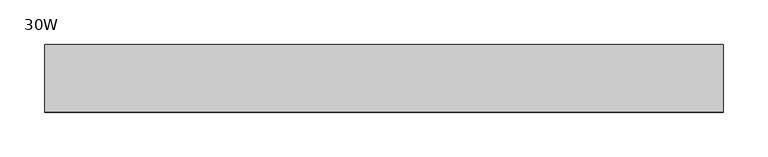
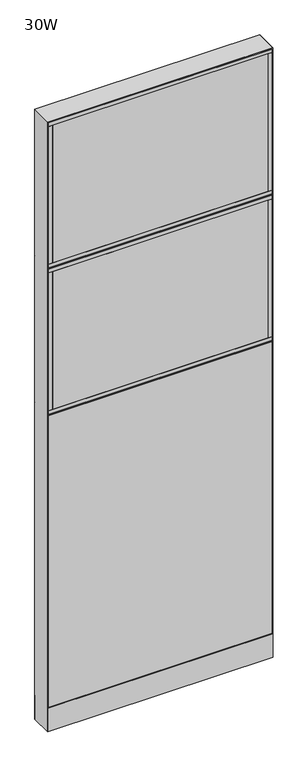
"""IFC4 building model written with IfcOpenShell, lengths in millimetres: furniture geometry, Steelcase - Montage - Frame - 86H - Enhanced Standard - Base Cavity : 30W."""

from ifc_helpers import new_model, si_unit, point, frame, frame_2d, origin, origin_with_axes, place, context, project, spatial, polyline, circle_curve, trimmed, segment, composite_curve, outline, extrude, faceted_brep, source, transform, mapped, element, save


def furniture_30w_df0053b3(model_context):
    return source(origin(), model_context, "Body", "SolidModel", [
        extrude(outline(polyline([(3.175, 31.7500194), (3.175, 38.1000194), (758.825, 38.1000194), (758.825, 31.7500194), (3.175, 31.7500194)])), frame((0.0, 0.0, 92.075), z_axis=(0.0, 0.0, 1.0), x_axis=(1.0, 0.0, 0.0)), (0.0, 0.0, 1.0), 1041.4),
        extrude(outline(polyline([(746.125, 38.1000015), (746.125, 31.7500017), (15.875, 31.7500017), (15.875, 38.1000015), (746.125, 38.1000015)])), frame((0.0, 0.0, 1152.525), z_axis=(0.0, 0.0, 1.0), x_axis=(1.0, 0.0, 0.0)), (0.0, 0.0, 1.0), 492.125),
        extrude(outline(polyline([(746.125, -31.7499985), (746.125, -38.1000015), (15.875, -38.1000015), (15.875, -31.7499985), (746.125, -31.7499985)])), frame((0.0, 0.0, 1152.525), z_axis=(0.0, 0.0, 1.0), x_axis=(1.0, 0.0, 0.0)), (0.0, 0.0, 1.0), 492.125),
        extrude(outline(polyline([(758.825, -38.1000015), (746.125, -38.1000015), (746.125, 38.1000015), (758.825, 38.1000015), (758.825, -38.1000015)])), frame((0.0, 0.0, 1152.525), z_axis=(0.0, 0.0, 1.0), x_axis=(1.0, 0.0, 0.0)), (0.0, 0.0, 1.0), 492.125),
        extrude(outline(polyline([(15.875, -38.1000015), (3.175, -38.1000015), (3.175, 38.1000015), (15.875, 38.1000015), (15.875, -38.1000015)])), frame((0.0, 0.0, 1152.525), z_axis=(0.0, 0.0, 1.0), x_axis=(1.0, 0.0, 0.0)), (0.0, 0.0, 1.0), 492.125),
        extrude(outline(polyline([(758.825, -38.1000015), (3.175, -38.1000015), (3.175, 38.1000015), (758.825, 38.1000015), (758.825, -38.1000015)])), frame((0.0, 0.0, 1139.825), z_axis=(0.0, 0.0, 1.0), x_axis=(1.0, 0.0, 0.0)), (0.0, 0.0, 1.0), 12.7),
        extrude(outline(polyline([(758.825, -38.1000015), (3.175, -38.1000015), (3.175, 38.1000015), (758.825, 38.1000015), (758.825, -38.1000015)])), frame((0.0, 0.0, 1644.65), z_axis=(0.0, 0.0, 1.0), x_axis=(1.0, 0.0, 0.0)), (0.0, 0.0, 1.0), 12.7),
        extrude(outline(polyline([(746.125, 38.1000015), (746.125, 31.7500017), (15.875, 31.7500017), (15.875, 38.1000015), (746.125, 38.1000015)])), frame((0.0, 0.0, 1676.4), z_axis=(0.0, 0.0, 1.0), x_axis=(1.0, 0.0, 0.0)), (0.0, 0.0, 1.0), 492.125),
        extrude(outline(polyline([(746.125, -31.7499985), (746.125, -38.1000015), (15.875, -38.1000015), (15.875, -31.7499985), (746.125, -31.7499985)])), frame((0.0, 0.0, 1676.4), z_axis=(0.0, 0.0, 1.0), x_axis=(1.0, 0.0, 0.0)), (0.0, 0.0, 1.0), 492.125),
        extrude(outline(polyline([(758.825, -38.1000015), (746.125, -38.1000015), (746.125, 38.1000015), (758.825, 38.1000015), (758.825, -38.1000015)])), frame((0.0, 0.0, 1676.4), z_axis=(0.0, 0.0, 1.0), x_axis=(1.0, 0.0, 0.0)), (0.0, 0.0, 1.0), 492.125),
        extrude(outline(polyline([(15.875, -38.1000015), (3.175, -38.1000015), (3.175, 38.1000015), (15.875, 38.1000015), (15.875, -38.1000015)])), frame((0.0, 0.0, 1676.4), z_axis=(0.0, 0.0, 1.0), x_axis=(1.0, 0.0, 0.0)), (0.0, 0.0, 1.0), 492.125),
        extrude(outline(polyline([(758.825, -38.1000015), (3.175, -38.1000015), (3.175, 38.1000015), (758.825, 38.1000015), (758.825, -38.1000015)])), frame((0.0, 0.0, 1663.7), z_axis=(0.0, 0.0, 1.0), x_axis=(1.0, 0.0, 0.0)), (0.0, 0.0, 1.0), 12.7),
        extrude(outline(polyline([(758.825, -38.1000015), (3.175, -38.1000015), (3.175, 38.1000015), (758.825, 38.1000015), (758.825, -38.1000015)])), frame((0.0, 0.0, 2168.525), z_axis=(0.0, 0.0, 1.0), x_axis=(1.0, 0.0, 0.0)), (0.0, 0.0, 1.0), 12.7),
        faceted_brep([(-5.4e-06, 38.102627, 1136.6500027), (6.3499917, 31.7526299, 1142.9999997), (755.6500047, 31.7526299, 1142.9999997), (762.0, 38.1026253, 1136.6500044), (755.6500047, 31.7526299, 1130.3000003), (6.3499917, 31.7526299, 1130.3000003)], [[[0, 1, 2, 3]], [[3, 4, 5, 0]], [[1, 5, 4, 2]], [[0, 5, 1]], [[2, 4, 3]]]),
        faceted_brep([(-5.4e-06, 38.102627, 1660.5250027), (6.3499917, 31.7526299, 1666.8749997), (755.6500047, 31.7526299, 1666.8749997), (762.0, 38.1026253, 1660.5250044), (755.6500047, 31.7526299, 1654.1750003), (6.3499917, 31.7526299, 1654.1750003)], [[[0, 1, 2, 3]], [[3, 4, 5, 0]], [[1, 5, 4, 2]], [[0, 5, 1]], [[2, 4, 3]]]),
        extrude(outline(polyline([(3.175, -31.7500194), (758.825, -31.7500194), (758.825, -38.1000194), (3.175, -38.1000194), (3.175, -31.7500194)])), frame((0.0, 0.0, 92.075), z_axis=(0.0, 0.0, 1.0), x_axis=(1.0, 0.0, 0.0)), (0.0, 0.0, 1.0), 1041.4),
        extrude(outline(polyline([(746.125, -38.1000015), (15.875, -38.1000015), (15.875, -31.7500017), (746.125, -31.7500017), (746.125, -38.1000015)])), frame((0.0, 0.0, 1152.525), z_axis=(0.0, 0.0, 1.0), x_axis=(1.0, 0.0, 0.0)), (0.0, 0.0, 1.0), 492.125),
        extrude(outline(polyline([(746.125, 31.7499985), (15.875, 31.7499985), (15.875, 38.1000015), (746.125, 38.1000015), (746.125, 31.7499985)])), frame((0.0, 0.0, 1152.525), z_axis=(0.0, 0.0, 1.0), x_axis=(1.0, 0.0, 0.0)), (0.0, 0.0, 1.0), 492.125),
        extrude(outline(polyline([(758.825, 38.1000015), (758.825, -38.1000015), (746.125, -38.1000015), (746.125, 38.1000015), (758.825, 38.1000015)])), frame((0.0, 0.0, 1152.525), z_axis=(0.0, 0.0, 1.0), x_axis=(1.0, 0.0, 0.0)), (0.0, 0.0, 1.0), 492.125),
        extrude(outline(polyline([(15.875, 38.1000015), (15.875, -38.1000015), (3.175, -38.1000015), (3.175, 38.1000015), (15.875, 38.1000015)])), frame((0.0, 0.0, 1152.525), z_axis=(0.0, 0.0, 1.0), x_axis=(1.0, 0.0, 0.0)), (0.0, 0.0, 1.0), 492.125),
        extrude(outline(polyline([(758.825, 38.1000015), (758.825, -38.1000015), (3.175, -38.1000015), (3.175, 38.1000015), (758.825, 38.1000015)])), frame((0.0, 0.0, 1139.825), z_axis=(0.0, 0.0, 1.0), x_axis=(1.0, 0.0, 0.0)), (0.0, 0.0, 1.0), 12.7),
        extrude(outline(polyline([(758.825, 38.1000015), (758.825, -38.1000015), (3.175, -38.1000015), (3.175, 38.1000015), (758.825, 38.1000015)])), frame((0.0, 0.0, 1644.65), z_axis=(0.0, 0.0, 1.0), x_axis=(1.0, 0.0, 0.0)), (0.0, 0.0, 1.0), 12.7),
        extrude(outline(polyline([(746.125, -38.1000015), (15.875, -38.1000015), (15.875, -31.7500017), (746.125, -31.7500017), (746.125, -38.1000015)])), frame((0.0, 0.0, 1676.4), z_axis=(0.0, 0.0, 1.0), x_axis=(1.0, 0.0, 0.0)), (0.0, 0.0, 1.0), 492.125),
        extrude(outline(polyline([(746.125, 31.7499985), (15.875, 31.7499985), (15.875, 38.1000015), (746.125, 38.1000015), (746.125, 31.7499985)])), frame((0.0, 0.0, 1676.4), z_axis=(0.0, 0.0, 1.0), x_axis=(1.0, 0.0, 0.0)), (0.0, 0.0, 1.0), 492.125),
        extrude(outline(polyline([(758.825, 38.1000015), (758.825, -38.1000015), (746.125, -38.1000015), (746.125, 38.1000015), (758.825, 38.1000015)])), frame((0.0, 0.0, 1676.4), z_axis=(0.0, 0.0, 1.0), x_axis=(1.0, 0.0, 0.0)), (0.0, 0.0, 1.0), 492.125),
        extrude(outline(polyline([(15.875, 38.1000015), (15.875, -38.1000015), (3.175, -38.1000015), (3.175, 38.1000015), (15.875, 38.1000015)])), frame((0.0, 0.0, 1676.4), z_axis=(0.0, 0.0, 1.0), x_axis=(1.0, 0.0, 0.0)), (0.0, 0.0, 1.0), 492.125),
        extrude(outline(polyline([(758.825, 38.1000015), (758.825, -38.1000015), (3.175, -38.1000015), (3.175, 38.1000015), (758.825, 38.1000015)])), frame((0.0, 0.0, 1663.7), z_axis=(0.0, 0.0, 1.0), x_axis=(1.0, 0.0, 0.0)), (0.0, 0.0, 1.0), 12.7),
        extrude(outline(polyline([(758.825, 38.1000015), (758.825, -38.1000015), (3.175, -38.1000015), (3.175, 38.1000015), (758.825, 38.1000015)])), frame((0.0, 0.0, 2168.525), z_axis=(0.0, 0.0, 1.0), x_axis=(1.0, 0.0, 0.0)), (0.0, 0.0, 1.0), 12.7),
        faceted_brep([(0.0, -38.1026297, 1136.65), (762.0, -38.1026297, 1136.65), (755.6500047, -31.7526299, 1142.9999997), (6.3499917, -31.7526299, 1142.9999997), (6.3499917, -31.7526299, 1130.3000003), (755.6500047, -31.7526299, 1130.3000003)], [[[0, 1, 2, 3]], [[1, 0, 4, 5]], [[3, 2, 5, 4]], [[0, 3, 4]], [[2, 1, 5]]]),
        faceted_brep([(0.0, -38.1026297, 1660.525), (762.0, -38.1026297, 1660.525), (755.6500047, -31.7526299, 1666.8749997), (6.3499917, -31.7526299, 1666.8749997), (6.3499917, -31.7526299, 1654.1750003), (755.6500047, -31.7526299, 1654.1750003)], [[[0, 1, 2, 3]], [[1, 0, 4, 5]], [[3, 2, 5, 4]], [[0, 3, 4]], [[2, 1, 5]]]),
        extrude(outline(polyline([(6.350003, -31.7499985), (755.649997, -31.7499985), (762.0, -38.1000015), (0.0, -38.1000015), (6.350003, -31.7499985)])), frame((0.0, 0.0, 4.064), z_axis=(0.0, 0.0, 1.0), x_axis=(1.0, 0.0, 0.0)), (0.0, 0.0, 1.0), 84.835997),
        extrude(outline(polyline([(6.3500002, 31.7500017), (0.0, 38.1000015), (762.0, 38.1000015), (755.6500002, 31.7500017), (6.3500002, 31.7500017)])), frame((0.0, 0.0, 4.064), z_axis=(0.0, 0.0, 1.0), x_axis=(1.0, 0.0, 0.0)), (0.0, 0.0, 1.0), 84.835997),
        faceted_brep([(762.0, -38.1000015, 2184.4), (0.0, -38.1000015, 2184.4), (6.3500484, -31.749953, 2178.0499516), (755.6499516, -31.749953, 2178.0499516), (6.3500484, 31.749953, 2178.0499516), (755.6499516, 31.749953, 2178.0499516), (0.0, 38.1000015, 2184.4), (762.0, 38.1000015, 2184.4)], [[[0, 1, 2, 3]], [[3, 2, 4, 5]], [[6, 7, 5, 4]], [[1, 0, 7, 6]], [[2, 1, 6, 4]], [[0, 3, 5, 7]]]),
        extrude(outline(composite_curve([segment(trimmed(circle_curve(frame_2d((44.45, 0.0)), 15.24), [point((29.21, 0.0))], [point((59.69, 0.0))], False, "CARTESIAN"), True, "CONTINUOUS"), segment(trimmed(circle_curve(frame_2d((44.45, 0.0)), 15.24), [point((59.69, 0.0))], [point((29.21, 0.0))], False, "CARTESIAN"), True, "CONTINUOUS")], self_intersect=False)), origin_with_axes(), (0.0, 0.0, 1.0), 4.064),
        extrude(outline(composite_curve([segment(trimmed(circle_curve(frame_2d((717.55, 0.0)), 15.24), [point((702.31, 0.0))], [point((732.79, 0.0))], False, "CARTESIAN"), True, "CONTINUOUS"), segment(trimmed(circle_curve(frame_2d((717.55, 0.0)), 15.24), [point((732.79, 0.0))], [point((702.31, 0.0))], False, "CARTESIAN"), True, "CONTINUOUS")], self_intersect=False)), origin_with_axes(), (0.0, 0.0, 1.0), 4.064),
        faceted_brep([(762.0, -38.1000106, 4.064), (762.0, 38.1000015, 4.064), (762.0, 38.1000015, 2184.4), (762.0, -38.1000106, 2184.3999637), (0.0, 38.1000015, 4.064), (0.0, -38.1000015, 4.064), (0.0, -38.1000015, 2184.4), (0.0, 38.1000015, 2184.4), (755.6499879, 31.7500017, 606.425), (6.35, 31.7500017, 606.425), (6.3499998, 31.7500017, 619.125), (755.6499879, 31.7500017, 619.125), (6.35, -31.7499985, 619.125), (755.6499879, -31.7499985, 619.125), (6.350003, -31.7499985, 606.425), (755.6499879, -31.7499985, 606.425), (755.6499879, 31.7500017, 1130.3), (6.35, 31.7500017, 1130.3), (6.3499998, 31.7500017, 1143.0), (755.6499879, 31.7500017, 1143.0), (6.35, -31.7499985, 1143.0), (755.6499879, -31.7499985, 1143.0), (6.350003, -31.7499985, 1130.3), (755.6499879, -31.7499985, 1130.3), (755.6499879, 31.7500017, 1654.175), (6.35, 31.7500017, 1654.175), (6.3499998, 31.7500017, 1666.875), (755.6499879, 31.7500017, 1666.875), (6.35, -31.7499985, 1666.875), (755.6499879, -31.7499985, 1666.875), (6.350003, -31.7499985, 1654.175), (755.6499879, -31.7499985, 1654.175), (6.35, 31.7500015, 4.064), (6.35, -31.7500015, 4.064), (755.6499879, 31.7499894, 4.064), (755.6499879, -31.7499985, 4.064), (6.35, 31.7500015, 2178.05), (6.35, -31.7500015, 2178.05), (755.6499879, -31.7499985, 2178.0499516), (755.6499879, 31.7499895, 2178.0499516)], [[[0, 1, 2, 3]], [[4, 5, 6, 7]], [[8, 9, 10, 11]], [[11, 10, 12, 13]], [[13, 12, 14, 15]], [[9, 8, 15, 14]], [[16, 17, 18, 19]], [[19, 18, 20, 21]], [[21, 20, 22, 23]], [[17, 16, 23, 22]], [[24, 25, 26, 27]], [[27, 26, 28, 29]], [[29, 28, 30, 31]], [[25, 24, 31, 30]], [[32, 33, 5, 4]], [[34, 1, 0, 35]], [[32, 4, 7, 36, 26, 25, 18, 17, 10, 9]], [[5, 33, 14, 12, 22, 20, 30, 28, 37, 6]], [[28, 26, 36, 37]], [[33, 32, 9, 14]], [[18, 25, 30, 20]], [[10, 17, 22, 12]], [[27, 29, 38, 39]], [[34, 35, 15, 8]], [[16, 11, 13, 23]], [[24, 19, 21, 31]], [[35, 0, 3, 38, 29, 31, 21, 23, 13, 15]], [[1, 34, 8, 11, 16, 19, 24, 27, 39, 2]], [[7, 6, 37, 36]], [[3, 2, 39, 38]]]),
    ])


if __name__ == "__main__":
    model = new_model("IFC4")
    model_context = context("Model", 3, world=origin())
    ifc_project = project(units=[si_unit("LENGTHUNIT", "METRE", prefix="MILLI")], contexts=[model_context])
    site = spatial("IfcSite", under=ifc_project)
    building = spatial("IfcBuilding", under=site)
    placement = place(None, origin())
    furniture_30w_shape = furniture_30w_df0053b3(model_context)
    element("IfcFurniture", 1, ObjectType="Steelcase - Montage - Frame - 86H - Enhanced Standard - Base Cavity : 30W", at=placement, inside=building, context=model_context, shape_type="MappedRepresentation", body=[
        mapped(furniture_30w_shape, transform((0.0, 0.0, 0.0), x_axis=(1.0, 0.0, 0.0), y_axis=(0.0, 1.0, 0.0), z_axis=(0.0, 0.0, 1.0))),
    ])
    save(model, "model.ifc")
